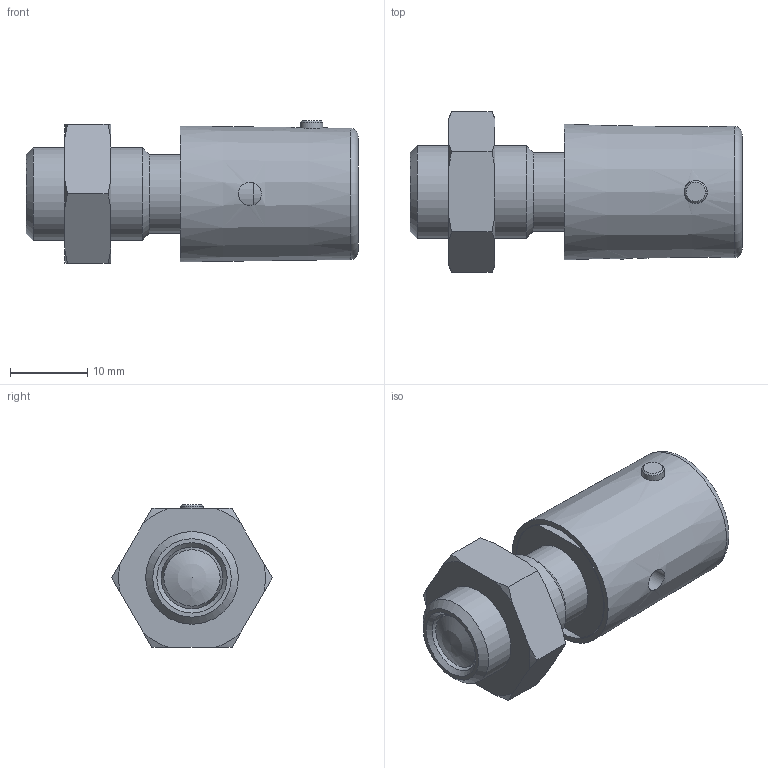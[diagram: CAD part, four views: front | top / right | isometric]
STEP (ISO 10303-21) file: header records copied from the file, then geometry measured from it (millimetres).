
FILE_DESCRIPTION( ( 'STEP AP203' ), '1' );
FILE_NAME( 'C:/Temp/Ganter_Step_05_03_2020/data/3_1/gn816/gn_816_bk/Locking plunger GN 816-8-M12x1,5-BK (activated).stp', '2020-03-12T08:56:02', ( 'License CC BY-ND 4.0' ), ( 'CADENAS' ), ' ', 'PARTsolutions', ' ' );
FILE_SCHEMA( ( 'CONFIG_CONTROL_DESIGN' ) );
Length unit declared in the file: millimetre
Products named in the file (4): Locking plunger GN 816-8-M12x1,5-BK (activated); _GN 816-8-M12x1,5-B(1)-b2; _GN 816-8-M12x1,5-Bb1; _Lock nut ISO 8675 GN 816-8-M12x1,5-AK
Assembly tree (3 placements, depth 2):
  Locking plunger GN 816-8-M12x1,5-BK (activated)
    _GN 816-8-M12x1,5-B(1)-b2
    _GN 816-8-M12x1,5-Bb1
    _Lock nut ISO 8675 GN 816-8-M12x1,5-AK
Bounding box: 43 x 20.78 x 18.5 mm (x, y, z)
Volume: 7339.1 mm3; surface area: 6114.1 mm2
Topology: 3 solids, 3 shells, 61 faces, 134 edges, 86 vertices
Faces by surface type: cone 23, plane 21, cylinder 14, torus 2, sphere 1
Full cylindrical faces by diameter (mm): 2.9 x2, 3 x2, 5.9 x1, 8 x2, 10.2 x1, 10.376 x1, 11.1 x1, 12 x1, 16.2 x1
Entity records: 1979 total; most frequent: CARTESIAN_POINT 624, DIRECTION 252, ORIENTED_EDGE 208, AXIS2_PLACEMENT_3D 113, EDGE_CURVE 104, EDGE_LOOP 102, VERTEX_POINT 83, FACE_OUTER_BOUND 75
